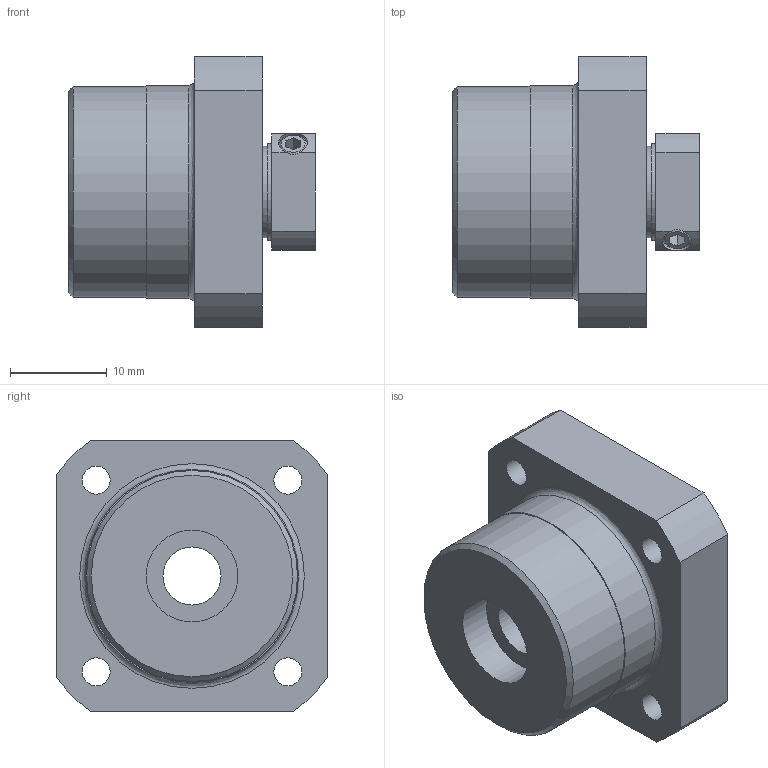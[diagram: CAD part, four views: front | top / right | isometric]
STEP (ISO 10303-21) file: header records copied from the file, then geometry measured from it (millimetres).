
FILE_DESCRIPTION((''),'2;1');
FILE_NAME('D:\製品 (図面)\カタログ用3D\ネジ関連\STEP形式\SUF\SUF6.stp','2010-06-02T14:47:57',('Tsuchiya'),(''),'Autodesk Inventor 10','Autodesk Inventor 10','');
FILE_SCHEMA(('AUTOMOTIVE_DESIGN { 1 0 10303 214 1 1 1 1 }'));
Length unit declared in the file: millimetre
Products named in the file (1): SUF6
Bounding box: 25.5 x 28 x 28 mm (x, y, z)
Volume: 9472.6 mm3; surface area: 4457 mm2
Topology: 2 solids, 2 shells, 67 faces, 156 edges, 104 vertices
Faces by surface type: plane 26, bspline 21, cylinder 17, cone 3
Full cylindrical faces by diameter (mm): 3 x1, 6 x2, 9.5 x2, 10 x1, 21.8 x1, 22 x1
Entity records: 2036 total; most frequent: CARTESIAN_POINT 656, DIRECTION 270, ORIENTED_EDGE 236, EDGE_CURVE 118, EDGE_LOOP 118, AXIS2_PLACEMENT_3D 109, VERTEX_POINT 94, FACE_OUTER_BOUND 67
